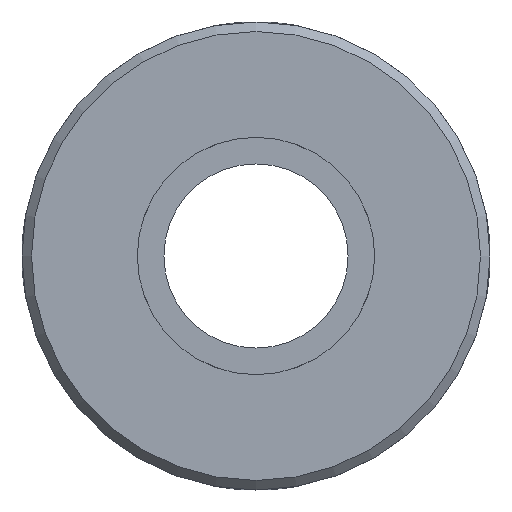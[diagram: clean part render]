
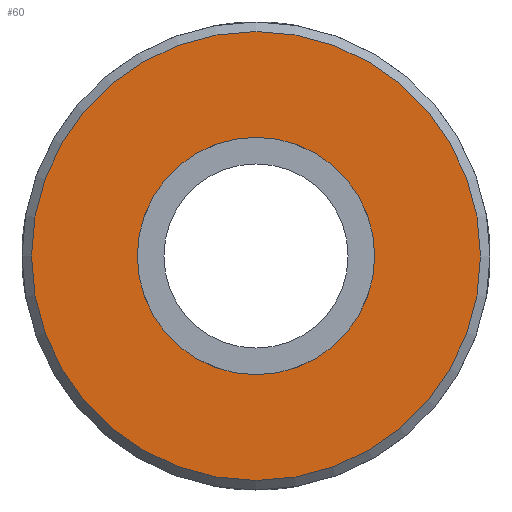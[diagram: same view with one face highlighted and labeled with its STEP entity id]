
A CAD part, front view. The second image highlights one B-rep face of the part: STEP entity #60.
In plain terms, the highlighted planar face has unit normal (0, -1, 0).
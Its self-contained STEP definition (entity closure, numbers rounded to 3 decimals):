
#60=ADVANCED_FACE('',(#179,#181),#183,.F.);
#179=FACE_BOUND('',#180,.T.);
#180=EDGE_LOOP('',(#986));
#181=FACE_BOUND('',#182,.T.);
#182=EDGE_LOOP('',(#987));
#183=PLANE('',#184);
#184=AXIS2_PLACEMENT_3D('',#185,#186,#187);
#185=CARTESIAN_POINT('',(0.,0.,0.));
#186=DIRECTION('',(0.,1.,0.));
#187=DIRECTION('',(-1.,0.,0.));
#986=ORIENTED_EDGE('',*,*,#1166,.F.);
#987=ORIENTED_EDGE('',*,*,#1161,.T.);
#1161=EDGE_CURVE('',#1281,#1281,#1282,.F.);
#1166=EDGE_CURVE('',#1291,#1291,#1292,.T.);
#1281=VERTEX_POINT('',#2213);
#1282=CIRCLE('',#2214,12.5);
#1291=VERTEX_POINT('',#2713);
#1292=CIRCLE('',#2714,23.65);
#2213=CARTESIAN_POINT('',(-12.5,0.,0.));
#2214=AXIS2_PLACEMENT_3D('',#2215,#2216,#2217);
#2215=CARTESIAN_POINT('',(0.,0.,0.));
#2216=DIRECTION('',(0.,-1.,0.));
#2217=DIRECTION('',(-1.,0.,0.));
#2713=CARTESIAN_POINT('',(-23.65,0.,0.));
#2714=AXIS2_PLACEMENT_3D('',#2715,#2716,#2717);
#2715=CARTESIAN_POINT('',(0.,0.,0.));
#2716=DIRECTION('',(0.,1.,0.));
#2717=DIRECTION('',(-1.,0.,0.));
